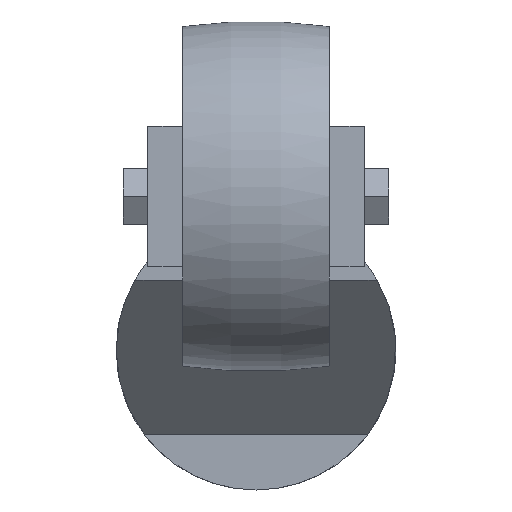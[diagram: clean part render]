
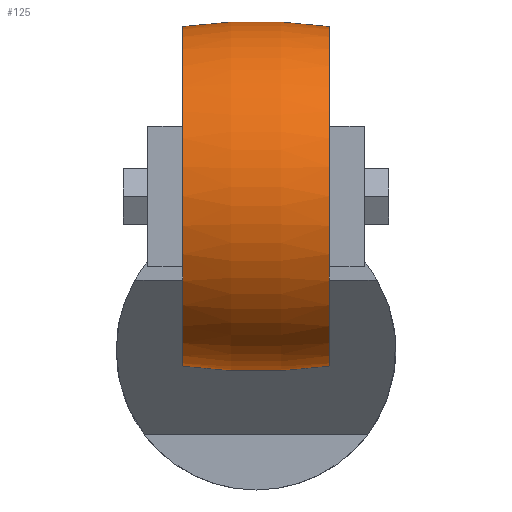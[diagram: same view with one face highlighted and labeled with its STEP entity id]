
A CAD part, front view. The second image highlights one B-rep face of the part: STEP entity #125.
In plain terms, the highlighted toroidal (fillet/blend) face has major radius 50 mm and minor radius 75 mm.
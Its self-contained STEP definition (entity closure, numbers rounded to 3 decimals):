
#9 = CARTESIAN_POINT ( 'NONE',  ( 10.5, -45., 22. ) ) ;
#43 = VERTEX_POINT ( 'NONE', #242 ) ;
#53 = ORIENTED_EDGE ( 'NONE', *, *, #964, .T. ) ;
#125 = ADVANCED_FACE ( 'NONE', ( #1225 ), #402, .T. ) ;
#150 = VERTEX_POINT ( 'NONE', #1152 ) ;
#198 = DIRECTION ( 'NONE',  ( 0., 0., -1. ) ) ;
#218 = CARTESIAN_POINT ( 'NONE',  ( 0., -45., -28. ) ) ;
#242 = CARTESIAN_POINT ( 'NONE',  ( 10.5, -45., 46.261 ) ) ;
#343 = CARTESIAN_POINT ( 'NONE',  ( -10.5, -45., 46.261 ) ) ;
#384 = DIRECTION ( 'NONE',  ( -1., 0., 0. ) ) ;
#397 = DIRECTION ( 'NONE',  ( 0., 0., 1. ) ) ;
#402 = TOROIDAL_SURFACE ( 'NONE', #1038, -50., 75. ) ;
#447 = ORIENTED_EDGE ( 'NONE', *, *, #890, .F. ) ;
#491 = DIRECTION ( 'NONE',  ( 0., -1., 0. ) ) ;
#492 = AXIS2_PLACEMENT_3D ( 'NONE', #9, #1081, #397 ) ;
#493 = EDGE_CURVE ( 'NONE', #43, #623, #688, .T. ) ;
#530 = CIRCLE ( 'NONE', #492, 24.261 ) ;
#556 = ORIENTED_EDGE ( 'NONE', *, *, #935, .F. ) ;
#567 = ORIENTED_EDGE ( 'NONE', *, *, #493, .T. ) ;
#571 = DIRECTION ( 'NONE',  ( 0., 0., 1. ) ) ;
#612 = VERTEX_POINT ( 'NONE', #621 ) ;
#617 = AXIS2_PLACEMENT_3D ( 'NONE', #1263, #384, #1170 ) ;
#621 = CARTESIAN_POINT ( 'NONE',  ( -10.5, -45., -2.261 ) ) ;
#623 = VERTEX_POINT ( 'NONE', #343 ) ;
#659 = CIRCLE ( 'NONE', #617, 24.261 ) ;
#671 = EDGE_LOOP ( 'NONE', ( #447, #53, #567, #556 ) ) ;
#676 = DIRECTION ( 'NONE',  ( 0., 1., 0. ) ) ;
#688 = CIRCLE ( 'NONE', #709, 75. ) ;
#693 = CARTESIAN_POINT ( 'NONE',  ( 0., -45., 72. ) ) ;
#709 = AXIS2_PLACEMENT_3D ( 'NONE', #218, #491, #198 ) ;
#738 = DIRECTION ( 'NONE',  ( -1., 0., 0. ) ) ;
#890 = EDGE_CURVE ( 'NONE', #150, #612, #1248, .T. ) ;
#935 = EDGE_CURVE ( 'NONE', #612, #623, #659, .T. ) ;
#964 = EDGE_CURVE ( 'NONE', #150, #43, #530, .T. ) ;
#1038 = AXIS2_PLACEMENT_3D ( 'NONE', #1245, #738, #1127 ) ;
#1080 = AXIS2_PLACEMENT_3D ( 'NONE', #693, #676, #571 ) ;
#1081 = DIRECTION ( 'NONE',  ( -1., 0., 0. ) ) ;
#1127 = DIRECTION ( 'NONE',  ( 0., 0., 1. ) ) ;
#1152 = CARTESIAN_POINT ( 'NONE',  ( 10.5, -45., -2.261 ) ) ;
#1170 = DIRECTION ( 'NONE',  ( 0., 0., 1. ) ) ;
#1225 = FACE_OUTER_BOUND ( 'NONE', #671, .T. ) ;
#1245 = CARTESIAN_POINT ( 'NONE',  ( 0., -45., 22. ) ) ;
#1248 = CIRCLE ( 'NONE', #1080, 75. ) ;
#1263 = CARTESIAN_POINT ( 'NONE',  ( -10.5, -45., 22. ) ) ;
